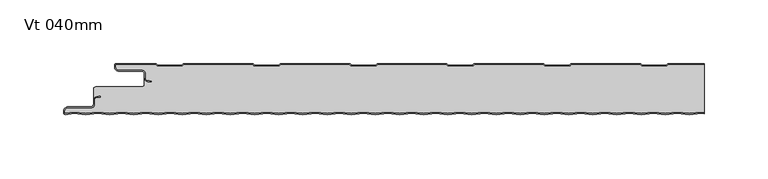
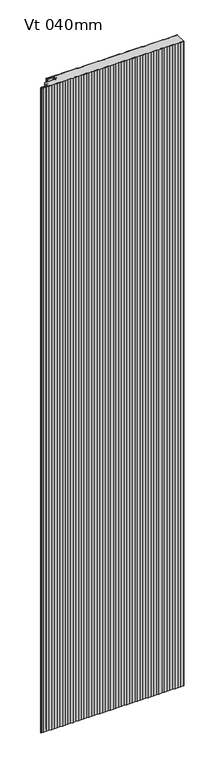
"""IFC4 building model written with IfcOpenShell, lengths in millimetres: plate geometry, KIP-MEX-FW-R19-CP-Vt-MR : Vt 040mm."""

from ifc_helpers import new_model, si_unit, point, frame_2d, origin, origin_with_axes, place, context, project, spatial, polyline, circle_curve, trimmed, segment, composite_curve, outline, extrude, source, transform, mapped, element, save


def vt_040mm_48560dee(model_context):
    return source(origin(), model_context, "Body", "SweptSolid", [
        extrude(outline(composite_curve([segment(polyline([(211.6664497, -1.0003366), (239.9783151, -1.0003366), (239.9783151, -38.251698), (237.6966378, -38.0103734), (228.1698236, -39.0105639), (218.7193014, -38.0110169), (209.1924872, -39.0112074), (199.7419649, -38.0116605), (190.2151508, -39.011851), (180.7646285, -38.012304), (171.2378143, -39.0124945), (161.7872921, -38.0129476), (152.2604779, -39.013138), (142.8099557, -38.0135911), (133.2831415, -39.0137816), (123.8326193, -38.0142347), (114.3058051, -39.0144251), (104.8552829, -38.0148782), (95.3284687, -39.0150687), (85.8779465, -38.0155218), (76.3511323, -39.0157122), (66.9006101, -38.0161653), (57.3737959, -39.0163558), (47.9232737, -38.0168088), (38.3964595, -39.0169993), (28.9459373, -38.0174524), (19.4191231, -39.0176429), (9.9686009, -38.0180959), (0.4417867, -39.0182864), (-9.0087356, -38.0187395), (-18.5355497, -39.0189299), (-27.986072, -38.019383), (-37.5128862, -39.0195735), (-46.9634084, -38.0200266), (-56.4902226, -39.020217), (-65.9407448, -38.0206701), (-75.467559, -39.0208606), (-84.9180812, -38.0213136), (-94.4448954, -39.0215041), (-103.8954176, -38.0219572), (-113.4222318, -39.0221477), (-122.872754, -38.0226007), (-132.3995682, -39.0227912), (-141.8500904, -38.0232443), (-151.3769046, -39.0234347), (-160.8274268, -38.0238878), (-170.354241, -39.0240783), (-179.8047632, -38.0245314), (-189.3315774, -39.0247218), (-198.7820997, -38.0251749), (-208.3089138, -39.0253654), (-217.7594361, -38.0258185), (-227.2862503, -39.0260089), (-236.7367725, -38.026462), (-246.2635867, -39.0266525), (-255.7141089, -38.0271055), (-262.5021469, -38.9994115), (-262.5021469, -37.4995355)]), True, "CONTINUOUS"), segment(trimmed(circle_curve(frame_2d((-260.0023506, -37.4995355)), 2.4997964), [point((-262.5021469, -37.4995355))], [point((-260.0023506, -34.9997391))], False, "CARTESIAN"), True, "CONTINUOUS"), segment(polyline([(-260.0023506, -34.9997391), (-242.0013906, -34.9997391)]), True, "CONTINUOUS"), segment(trimmed(circle_curve(frame_2d((-242.0013906, -31.9990175)), 3.0007216), [point((-242.0013906, -34.9997391))], [point((-239.0006699, -32.0012622))], True, "CARTESIAN"), True, "CONTINUOUS"), segment(polyline([(-239.0006699, -32.0012622), (-239.0006699, -28.4048939)]), True, "CONTINUOUS"), segment(trimmed(circle_curve(frame_2d((-237.5002997, -28.4048939)), 1.5003702), [point((-239.0006699, -28.4048939))], [point((-237.7599012, -26.9271532))], False, "CARTESIAN"), True, "CONTINUOUS"), segment(polyline([(-237.7599012, -26.9271532), (-234.2177272, -26.3048833), (-234.3907149, -25.3201776), (-237.9325334, -25.942385)]), True, "CONTINUOUS"), segment(trimmed(circle_curve(frame_2d((-237.4999649, -28.4047134)), 2.5000354), [point((-237.9325334, -25.942385))], [point((-239.9999998, -28.4032291))], True, "CARTESIAN"), True, "CONTINUOUS"), segment(polyline([(-239.9999998, -28.4032291), (-239.9999998, -20.2497149)]), True, "CONTINUOUS"), segment(trimmed(circle_curve(frame_2d((-237.9999882, -20.2497149)), 2.0000117), [point((-239.9999998, -20.2497149))], [point((-237.9999882, -18.2497033))], False, "CARTESIAN"), True, "CONTINUOUS"), segment(polyline([(-237.9999882, -18.2497033), (-201.9999859, -18.2497033)]), True, "CONTINUOUS"), segment(trimmed(circle_curve(frame_2d((-201.9999859, -16.2497112)), 1.9999921), [point((-201.9999859, -18.2497033))], [point((-199.9999938, -16.2497112))], True, "CARTESIAN"), True, "CONTINUOUS"), segment(polyline([(-199.9999938, -16.2497112), (-199.9999938, -11.5958548)]), True, "CONTINUOUS"), segment(trimmed(circle_curve(frame_2d((-197.4999719, -11.5943842)), 2.5000223), [point((-199.9999938, -11.5958548))], [point((-197.9325369, -14.0567))], True, "CARTESIAN"), True, "CONTINUOUS"), segment(polyline([(-197.9325369, -14.0567), (-194.3907161, -14.6789059), (-194.217729, -13.6942009), (-197.7599066, -13.0719322)]), True, "CONTINUOUS"), segment(trimmed(circle_curve(frame_2d((-197.500308, -11.5942031)), 1.5003583), [point((-197.7599066, -13.0719322))], [point((-199.0006663, -11.5942031))], False, "CARTESIAN"), True, "CONTINUOUS"), segment(polyline([(-199.0006663, -11.5942031), (-199.0006663, -7.9979742)]), True, "CONTINUOUS"), segment(trimmed(circle_curve(frame_2d((-202.0013894, -8.000067)), 3.0007238), [point((-199.0006663, -7.9979742))], [point((-202.0013894, -4.9993432))], True, "CARTESIAN"), True, "CONTINUOUS"), segment(polyline([(-202.0013894, -4.9993432), (-220.0023522, -4.9993432)]), True, "CONTINUOUS"), segment(trimmed(circle_curve(frame_2d((-220.0023522, -2.4995477)), 2.4997955), [point((-220.0023522, -4.9993432))], [point((-222.5021477, -2.4995477))], False, "CARTESIAN"), True, "CONTINUOUS"), segment(polyline([(-222.5021477, -2.4995477), (-222.5021477, -0.9997153), (-191.1987717, -0.9997153), (-190.1136253, -2.2014096), (-170.181647, -2.2014096), (-169.0936972, -1.0003366), (-115.0486904, -1.0003366), (-113.9621662, -2.1998358), (-94.0301878, -2.1998358), (-92.9436635, -1.0003366), (-38.8958057, -1.0003366), (-37.8092814, -2.1998358), (-17.8773031, -2.1998358), (-16.7907788, -1.0003366), (37.2570791, -1.0003366), (38.3436034, -2.1998358), (58.2755817, -2.1998358), (59.362106, -1.0003366), (113.4099638, -1.0003366), (114.4964881, -2.1998358), (134.4284665, -2.1998358), (135.513565, -1.0003366), (189.5628486, -1.0003366), (190.6493729, -2.1998358), (210.5813512, -2.1998358), (211.6664497, -1.0003366)]), True, "CONTINUOUS")], self_intersect=False)), origin_with_axes(), (0.0, 0.0, 1.0), 2400.0),
        extrude(outline(composite_curve([segment(polyline([(211.2244311, 0.0), (239.9783151, 0.0), (239.9783151, -0.9984262), (211.6664497, -0.9984262), (210.5813512, -2.1979254), (190.6493729, -2.1979254), (189.5628486, -0.9984262), (135.513565, -0.9984262), (134.4284665, -2.1979254), (114.4964881, -2.1979254), (113.4099638, -0.9984262), (59.362106, -0.9984262), (58.2755817, -2.1979254), (38.3436034, -2.1979254), (37.2570791, -0.9984262), (-16.7907788, -0.9984262), (-17.8773031, -2.1979254), (-37.8092814, -2.1979254), (-38.8958057, -0.9984262), (-92.9436635, -0.9984262), (-94.0301878, -2.1979254), (-113.9621662, -2.1979254), (-115.0486904, -0.9984262), (-169.0936972, -0.9984262), (-170.181647, -2.1994992), (-190.1136253, -2.1994992), (-191.1987717, -0.9978049), (-222.5021492, -0.9978049), (-222.5021492, -2.4976391)]), True, "CONTINUOUS"), segment(trimmed(circle_curve(frame_2d((-220.0023514, -2.4976391)), 2.4997977), [point((-222.5021492, -2.4976391))], [point((-220.0023514, -4.9974368))], True, "CARTESIAN"), True, "CONTINUOUS"), segment(polyline([(-220.0023514, -4.9974368), (-202.0013972, -4.9974368)]), True, "CONTINUOUS"), segment(trimmed(circle_curve(frame_2d((-202.0013972, -7.9981527)), 3.0007159), [point((-202.0013972, -4.9974368))], [point((-199.0006821, -7.9960599))], False, "CARTESIAN"), True, "CONTINUOUS"), segment(polyline([(-199.0006821, -7.9960599), (-199.0006821, -11.5923191)]), True, "CONTINUOUS"), segment(trimmed(circle_curve(frame_2d((-197.5002992, -11.5923191)), 1.5003829), [point((-199.0006821, -11.5923191))], [point((-197.7598386, -13.0700837))], True, "CARTESIAN"), True, "CONTINUOUS"), segment(polyline([(-197.7598386, -13.0700837), (-194.2177319, -13.692183), (-194.3907142, -14.6771087), (-197.9328222, -14.0550092)]), True, "CONTINUOUS"), segment(trimmed(circle_curve(frame_2d((-197.5003004, -11.5923184)), 2.5003842), [point((-197.9328222, -14.0550092))], [point((-200.0006841, -11.5937892))], False, "CARTESIAN"), True, "CONTINUOUS"), segment(polyline([(-200.0006841, -11.5937892), (-200.0006841, -7.9966543)]), True, "CONTINUOUS"), segment(trimmed(circle_curve(frame_2d((-202.0013948, -7.9981583)), 2.0007112), [point((-200.0006841, -7.9966543))], [point((-202.0013948, -5.9974471))], True, "CARTESIAN"), True, "CONTINUOUS"), segment(polyline([(-202.0013948, -5.9974471), (-220.0023716, -5.9974471)]), True, "CONTINUOUS"), segment(trimmed(circle_curve(frame_2d((-220.0023716, -2.4976291)), 3.499818), [point((-220.0023716, -5.9974471))], [point((-223.5021896, -2.4976291))], False, "CARTESIAN"), True, "CONTINUOUS"), segment(polyline([(-223.5021896, -2.4976291), (-223.5021896, -1.4977832)]), True, "CONTINUOUS"), segment(trimmed(circle_curve(frame_2d((-222.0022448, -1.4977832)), 1.4999449), [point((-223.5021896, -1.4977832))], [point((-221.8959818, -0.0016072))], False, "CARTESIAN"), True, "CONTINUOUS"), segment(polyline([(-221.8959818, -0.0016072), (-190.7552797, -0.0016072), (-189.670181, -1.1994992), (-170.6250914, -1.1994992), (-169.5385671, 0.0), (-114.6038205, 0.0), (-113.5187218, -1.1979254), (-94.4736322, -1.1979254), (-93.3871079, 0.0), (-38.4509357, 0.0), (-37.365837, -1.1979254), (-18.3207474, -1.1979254), (-17.2342232, 0.0), (37.701949, 0.0), (38.7870477, -1.1979254), (57.8321373, -1.1979254), (58.9186616, 0.0), (113.8548338, 0.0), (114.9399325, -1.1979254), (133.9850221, -1.1979254), (135.0715464, 0.0), (190.0077186, 0.0), (191.0928173, -1.1979254), (210.1379068, -1.1979254), (211.2244311, 0.0)]), True, "CONTINUOUS")], self_intersect=False)), origin_with_axes(), (0.0, 0.0, 1.0), 2400.0),
        extrude(outline(composite_curve([segment(polyline([(237.6966378, -38.0110048), (239.9783151, -38.2523294), (239.9783151, -39.2579072), (237.6962502, -39.0165416), (228.169436, -40.016732), (218.7189138, -39.0171851), (209.1920996, -40.0173756), (199.7415774, -39.0178286), (190.2147632, -40.0180191), (180.764241, -39.0184722), (171.2374268, -40.0186627), (161.7869046, -39.0191157), (152.2600904, -40.0193062), (142.8095681, -39.0197593), (133.282754, -40.0199497), (123.8322317, -39.0204028), (114.3054175, -40.0205933), (104.8548953, -39.0210464), (95.3280811, -40.0212368), (85.8775589, -39.0216899), (76.3507447, -40.0218804), (66.9002225, -39.0223334), (57.3734083, -40.0225239), (47.9228861, -39.022977), (38.3960719, -40.0231675), (28.9455497, -39.0236205), (19.4187355, -40.023811), (9.9682133, -39.0242641), (0.4413991, -40.0244545), (-9.0091231, -39.0249076), (-18.5359373, -40.0250981), (-27.9864595, -39.0255512), (-37.5132737, -40.0257416), (-46.963796, -39.0261947), (-56.4906101, -40.0263852), (-65.9411324, -39.0268383), (-75.4679466, -40.0270287), (-84.9184688, -39.0274818), (-94.445283, -40.0276723), (-103.8958052, -39.0281253), (-113.4226194, -40.0283158), (-122.8731416, -39.0287689), (-132.3999558, -40.0289593), (-141.850478, -39.0294124), (-151.3772922, -40.0296029), (-160.8278144, -39.030056), (-170.3546286, -40.0302464), (-179.8051508, -39.0306995), (-189.331965, -40.03089), (-198.7824872, -39.0313431), (-208.3093014, -40.0315335), (-217.7598236, -39.0319866), (-227.2866378, -40.0321771), (-236.73716, -39.0326301), (-246.2639742, -40.0328206), (-255.7144965, -39.0332737), (-262.0022443, -39.9999669)]), True, "CONTINUOUS"), segment(trimmed(circle_curve(frame_2d((-262.0022443, -38.5000215)), 1.4999455), [point((-262.0022443, -39.9999669))], [point((-263.5021897, -38.5000215))], False, "CARTESIAN"), True, "CONTINUOUS"), segment(polyline([(-263.5021897, -38.5000215), (-263.5021897, -37.5001754)]), True, "CONTINUOUS"), segment(trimmed(circle_curve(frame_2d((-260.0023705, -37.5001754)), 3.4998192), [point((-263.5021897, -37.5001754))], [point((-260.0023705, -34.0003562))], False, "CARTESIAN"), True, "CONTINUOUS"), segment(polyline([(-260.0023705, -34.0003562), (-242.0013958, -34.0003562)]), True, "CONTINUOUS"), segment(trimmed(circle_curve(frame_2d((-242.0013958, -31.9996477)), 2.0007086), [point((-242.0013958, -34.0003562))], [point((-240.0006878, -32.0011442))], True, "CARTESIAN"), True, "CONTINUOUS"), segment(polyline([(-240.0006878, -32.0011442), (-240.0006878, -28.4040152)]), True, "CONTINUOUS"), segment(trimmed(circle_curve(frame_2d((-237.5002923, -28.4054997)), 2.500396), [point((-240.0006878, -28.4040152))], [point((-237.9328177, -25.9427976))], False, "CARTESIAN"), True, "CONTINUOUS"), segment(polyline([(-237.9328177, -25.9427976), (-234.390713, -25.3206961), (-234.2177301, -26.3056218), (-237.7598334, -26.927723)]), True, "CONTINUOUS"), segment(trimmed(circle_curve(frame_2d((-237.500291, -28.405499)), 1.5003947), [point((-237.7598334, -26.927723))], [point((-239.0006856, -28.405499))], True, "CARTESIAN"), True, "CONTINUOUS"), segment(polyline([(-239.0006856, -28.405499), (-239.0006856, -32.0018975)]), True, "CONTINUOUS"), segment(trimmed(circle_curve(frame_2d((-242.0013985, -31.9996528)), 3.0007137), [point((-239.0006856, -32.0018975))], [point((-242.0013985, -35.0003665))], False, "CARTESIAN"), True, "CONTINUOUS"), segment(polyline([(-242.0013985, -35.0003665), (-260.0023498, -35.0003665)]), True, "CONTINUOUS"), segment(trimmed(circle_curve(frame_2d((-260.0023498, -37.5001651)), 2.4997986), [point((-260.0023498, -35.0003665))], [point((-262.5021484, -37.5001651))], True, "CARTESIAN"), True, "CONTINUOUS"), segment(polyline([(-262.5021484, -37.5001651), (-262.5021484, -39.000043), (-255.7141089, -38.027737), (-246.2635867, -39.0272839), (-236.7367725, -38.0270934), (-227.2862503, -39.0266404), (-217.7594361, -38.0264499), (-208.3089138, -39.0259968), (-198.7820997, -38.0258063), (-189.3315774, -39.0253533), (-179.8047632, -38.0251628), (-170.354241, -39.0247097), (-160.8274268, -38.0245193), (-151.3769046, -39.0240662), (-141.8500904, -38.0238757), (-132.3995682, -39.0234226), (-122.872754, -38.0232322), (-113.4222318, -39.0227791), (-103.8954176, -38.0225886), (-94.4448954, -39.0221356), (-84.9180812, -38.0219451), (-75.467559, -39.021492), (-65.9407448, -38.0213015), (-56.4902226, -39.0208485), (-46.9634084, -38.020658), (-37.5128862, -39.0202049), (-27.986072, -38.0200145), (-18.5355497, -39.0195614), (-9.0087356, -38.0193709), (0.4417867, -39.0189178), (9.9686009, -38.0187274), (19.4191231, -39.0182743), (28.9459373, -38.0180838), (38.3964595, -39.0176307), (47.9232737, -38.0174403), (57.3737959, -39.0169872), (66.9006101, -38.0167967), (76.3511323, -39.0163437), (85.8779465, -38.0161532), (95.3284687, -39.0157001), (104.8552829, -38.0155096), (114.3058051, -39.0150566), (123.8326193, -38.0148661), (133.2831415, -39.014413), (142.8099557, -38.0142226), (152.2604779, -39.0137695), (161.7872921, -38.013579), (171.2378143, -39.0131259), (180.7646285, -38.0129355), (190.2151508, -39.0124824), (199.7419649, -38.0122919), (209.1924872, -39.0118389), (218.7193014, -38.0116484), (228.1698236, -39.0111953), (237.6966378, -38.0110048)]), True, "CONTINUOUS")], self_intersect=False)), origin_with_axes(), (0.0, 0.0, 1.0), 2400.0),
    ])


if __name__ == "__main__":
    model = new_model("IFC4")
    model_context = context("Model", 3, world=origin())
    ifc_project = project(units=[si_unit("LENGTHUNIT", "METRE", prefix="MILLI")], contexts=[model_context])
    site = spatial("IfcSite", under=ifc_project)
    building = spatial("IfcBuilding", under=site)
    placement = place(None, origin())
    vt_040mm_shape = vt_040mm_48560dee(model_context)
    element("IfcPlate", 1, ObjectType="KIP-MEX-FW-R19-CP-Vt-MR : Vt 040mm", at=placement, inside=building, context=model_context, shape_type="MappedRepresentation", body=[
        mapped(vt_040mm_shape, transform((0.0, 0.0, 0.0), x_axis=(1.0, 0.0, 0.0), y_axis=(0.0, 1.0, 0.0), z_axis=(0.0, 0.0, 1.0))),
    ])
    save(model, "model.ifc")
